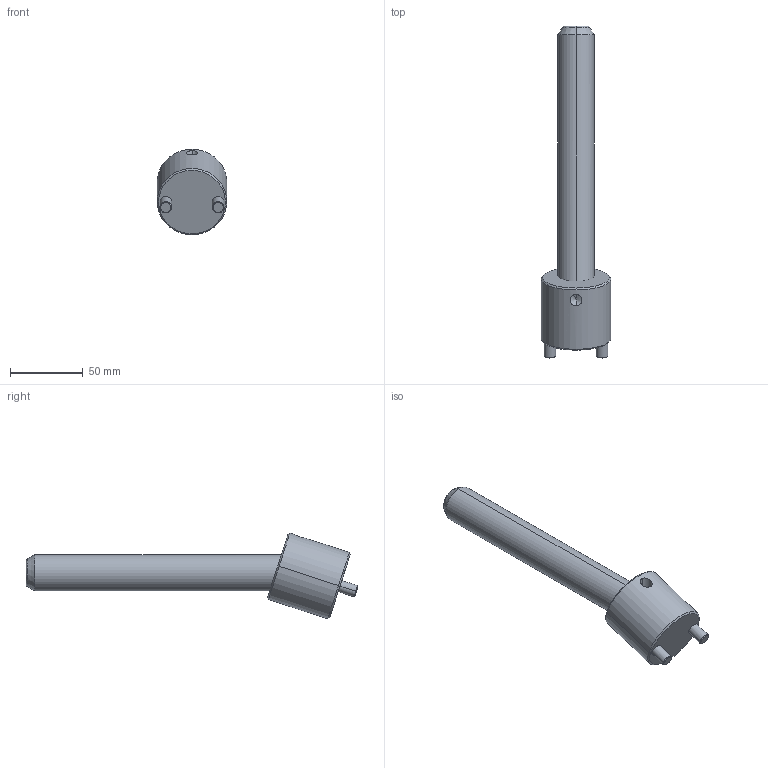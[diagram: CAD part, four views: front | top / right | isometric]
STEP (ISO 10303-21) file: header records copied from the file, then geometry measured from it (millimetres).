
FILE_DESCRIPTION(('CATIA V5 STEP Exchange'),'2;1');
FILE_NAME('C:\Users\Raffaele\Desktop\3D BOLEX\3D FILES CF BOLEX\19-INCLINED ASSEMBLY REF_CI\CI1825175.stp','2019-06-24T07:46:26+00:00',('none'),('none'),'CATIA Version 5 Release 20 GA (IN-10)','CATIA V5 STEP AP203','none');
FILE_SCHEMA(('CONFIG_CONTROL_DESIGN'));
Length unit declared in the file: millimetre
Products named in the file (1): CI1825175
Assembly tree (2 placements, depth 2):
  CI1825175
    #58
    #608
Bounding box: 48 x 228.84 x 58.94 mm (x, y, z)
Volume: 165048.4 mm3; surface area: 31290.3 mm2
Topology: 2 solids, 2 shells, 39 faces, 82 edges, 47 vertices
Faces by surface type: cone 14, cylinder 14, plane 7, torus 4
Entity records: 1533 total; most frequent: CARTESIAN_POINT 674, ORIENTED_EDGE 160, DIRECTION 145, EDGE_CURVE 80, AXIS2_PLACEMENT_3D 72, VERTEX_POINT 47, EDGE_LOOP 43, ADVANCED_FACE 39
